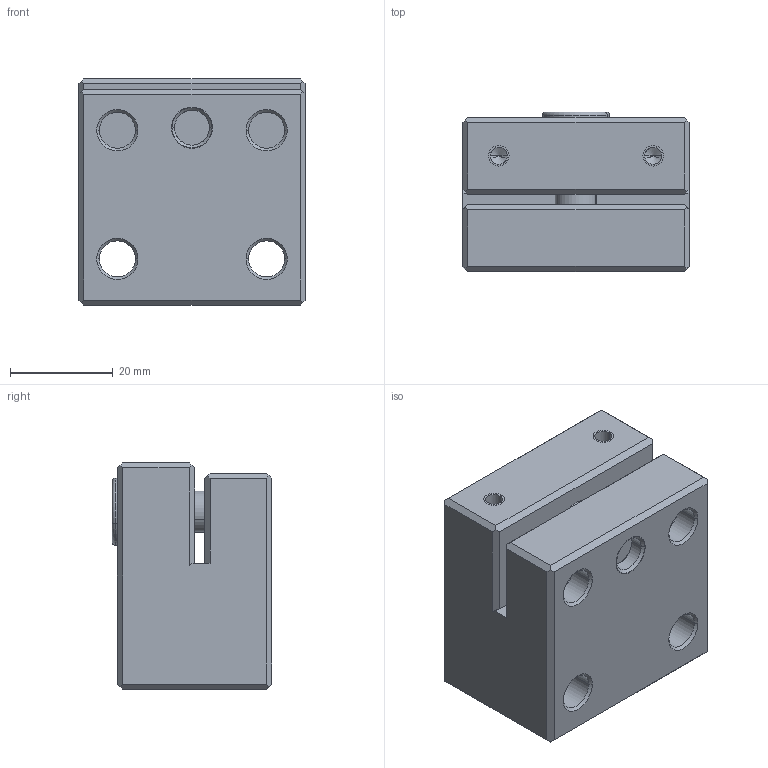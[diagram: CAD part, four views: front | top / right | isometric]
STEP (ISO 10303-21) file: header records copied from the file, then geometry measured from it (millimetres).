
FILE_DESCRIPTION((''),'2;1');
FILE_NAME('FG_WH_WEDCL_OSTJ2NP001','2026-06-12T10:58:33',('Admin'),(''),'CREO PARAMETRIC BY PTC INC, 2025010','CREO PARAMETRIC BY PTC INC, 2025010','');
FILE_SCHEMA(('CONFIG_CONTROL_DESIGN'));
Length unit declared in the file: metre
Products named in the file (1): FG_WH_WEDCL_OSTJ2NP001
Bounding box: 44 x 31 x 44 mm (x, y, z)
Volume: 48959.7 mm3; surface area: 14467.3 mm2
Topology: 1 solids, 5 shells, 126 faces, 349 edges, 234 vertices
Faces by surface type: plane 58, cylinder 40, cone 24, torus 4
Entity records: 4200 total; most frequent: CARTESIAN_POINT 790, DIRECTION 741, ORIENTED_EDGE 674, EDGE_CURVE 345, AXIS2_PLACEMENT_3D 275, VERTEX_POINT 234, VECTOR 191, LINE 191
